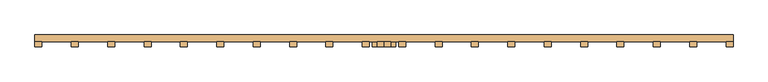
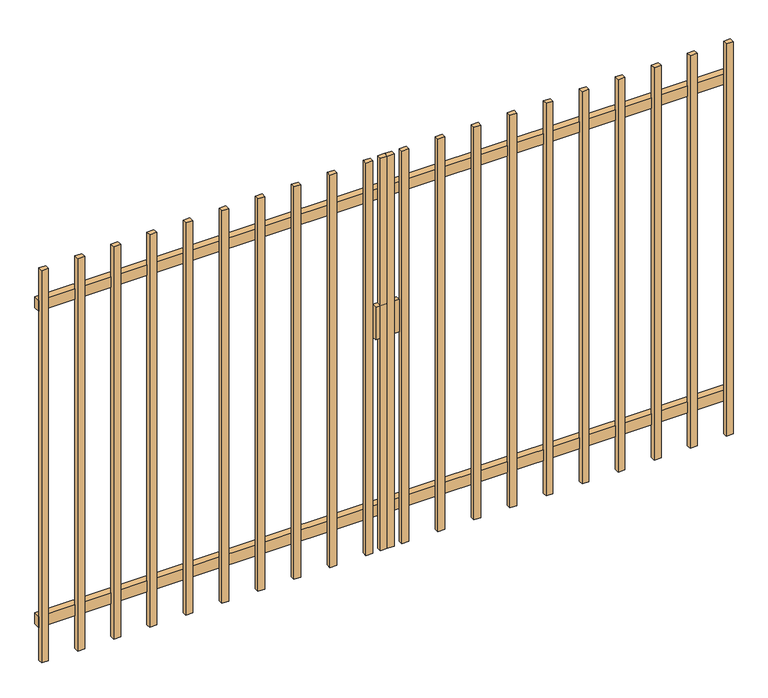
"""IFC4 building model written with IfcOpenShell, lengths in millimetres: door geometry, PORTÃO DUPLO PAREDE CORTINA : PORTÃO DUPLO 3M."""

from ifc_helpers import new_model, si_unit, frame, origin, place, context, project, spatial, polyline, outline, extrude, source, transform, mapped, element, save


def door_13d7e7a6(model_context):
    return source(origin(), model_context, "Body", "SweptSolid", [
        extrude(outline(polyline([(-1313.6842105, -90.0), (-1343.6842105, -90.0), (-1343.6842105, -70.0), (-1313.6842105, -70.0), (-1313.6842105, -90.0)])), frame((0.0, 0.0, 50.0), z_axis=(0.0, 0.0, 1.0), x_axis=(1.0, 0.0, 0.0)), (0.0, 0.0, 1.0), 1800.0),
        extrude(outline(polyline([(-1157.3684211, -90.0), (-1187.3684211, -90.0), (-1187.3684211, -70.0), (-1157.3684211, -70.0), (-1157.3684211, -90.0)])), frame((0.0, 0.0, 50.0), z_axis=(0.0, 0.0, 1.0), x_axis=(1.0, 0.0, 0.0)), (0.0, 0.0, 1.0), 1800.0),
        extrude(outline(polyline([(-1001.0526316, -90.0), (-1031.0526316, -90.0), (-1031.0526316, -70.0), (-1001.0526316, -70.0), (-1001.0526316, -90.0)])), frame((0.0, 0.0, 50.0), z_axis=(0.0, 0.0, 1.0), x_axis=(1.0, 0.0, 0.0)), (0.0, 0.0, 1.0), 1800.0),
        extrude(outline(polyline([(-844.7368421, -90.0), (-874.7368421, -90.0), (-874.7368421, -70.0), (-844.7368421, -70.0), (-844.7368421, -90.0)])), frame((0.0, 0.0, 50.0), z_axis=(0.0, 0.0, 1.0), x_axis=(1.0, 0.0, 0.0)), (0.0, 0.0, 1.0), 1800.0),
        extrude(outline(polyline([(-688.4210526, -90.0), (-718.4210526, -90.0), (-718.4210526, -70.0), (-688.4210526, -70.0), (-688.4210526, -90.0)])), frame((0.0, 0.0, 50.0), z_axis=(0.0, 0.0, 1.0), x_axis=(1.0, 0.0, 0.0)), (0.0, 0.0, 1.0), 1800.0),
        extrude(outline(polyline([(-532.1052632, -90.0), (-562.1052632, -90.0), (-562.1052632, -70.0), (-532.1052632, -70.0), (-532.1052632, -90.0)])), frame((0.0, 0.0, 50.0), z_axis=(0.0, 0.0, 1.0), x_axis=(1.0, 0.0, 0.0)), (0.0, 0.0, 1.0), 1800.0),
        extrude(outline(polyline([(-375.7894737, -90.0), (-405.7894737, -90.0), (-405.7894737, -70.0), (-375.7894737, -70.0), (-375.7894737, -90.0)])), frame((0.0, 0.0, 50.0), z_axis=(0.0, 0.0, 1.0), x_axis=(1.0, 0.0, 0.0)), (0.0, 0.0, 1.0), 1800.0),
        extrude(outline(polyline([(-219.4736842, -90.0), (-249.4736842, -90.0), (-249.4736842, -70.0), (-219.4736842, -70.0), (-219.4736842, -90.0)])), frame((0.0, 0.0, 50.0), z_axis=(0.0, 0.0, 1.0), x_axis=(1.0, 0.0, 0.0)), (0.0, 0.0, 1.0), 1800.0),
        extrude(outline(polyline([(30.0, -90.0), (0.0, -90.0), (0.0, -70.0), (30.0, -70.0), (30.0, -90.0)])), frame((0.0, 0.0, 50.0), z_axis=(0.0, 0.0, 1.0), x_axis=(1.0, 0.0, 0.0)), (0.0, 0.0, 1.0), 1800.0),
        extrude(outline(polyline([(0.0, -90.0), (-30.0, -90.0), (-30.0, -70.0), (0.0, -70.0), (0.0, -90.0)])), frame((0.0, 0.0, 50.0), z_axis=(0.0, 0.0, 1.0), x_axis=(1.0, 0.0, 0.0)), (0.0, 0.0, 1.0), 1800.0),
        extrude(outline(polyline([(-63.1578947, -90.0), (-93.1578947, -90.0), (-93.1578947, -70.0), (-63.1578947, -70.0), (-63.1578947, -90.0)])), frame((0.0, 0.0, 50.0), z_axis=(0.0, 0.0, 1.0), x_axis=(1.0, 0.0, 0.0)), (0.0, 0.0, 1.0), 1800.0),
        extrude(outline(polyline([(93.1578947, -90.0), (63.1578947, -90.0), (63.1578947, -70.0), (93.1578947, -70.0), (93.1578947, -90.0)])), frame((0.0, 0.0, 50.0), z_axis=(0.0, 0.0, 1.0), x_axis=(1.0, 0.0, 0.0)), (0.0, 0.0, 1.0), 1800.0),
        extrude(outline(polyline([(249.4736842, -90.0), (219.4736842, -90.0), (219.4736842, -70.0), (249.4736842, -70.0), (249.4736842, -90.0)])), frame((0.0, 0.0, 50.0), z_axis=(0.0, 0.0, 1.0), x_axis=(1.0, 0.0, 0.0)), (0.0, 0.0, 1.0), 1800.0),
        extrude(outline(polyline([(405.7894737, -90.0), (375.7894737, -90.0), (375.7894737, -70.0), (405.7894737, -70.0), (405.7894737, -90.0)])), frame((0.0, 0.0, 50.0), z_axis=(0.0, 0.0, 1.0), x_axis=(1.0, 0.0, 0.0)), (0.0, 0.0, 1.0), 1800.0),
        extrude(outline(polyline([(562.1052632, -90.0), (532.1052632, -90.0), (532.1052632, -70.0), (562.1052632, -70.0), (562.1052632, -90.0)])), frame((0.0, 0.0, 50.0), z_axis=(0.0, 0.0, 1.0), x_axis=(1.0, 0.0, 0.0)), (0.0, 0.0, 1.0), 1800.0),
        extrude(outline(polyline([(718.4210526, -90.0), (688.4210526, -90.0), (688.4210526, -70.0), (718.4210526, -70.0), (718.4210526, -90.0)])), frame((0.0, 0.0, 50.0), z_axis=(0.0, 0.0, 1.0), x_axis=(1.0, 0.0, 0.0)), (0.0, 0.0, 1.0), 1800.0),
        extrude(outline(polyline([(874.7368421, -90.0), (844.7368421, -90.0), (844.7368421, -70.0), (874.7368421, -70.0), (874.7368421, -90.0)])), frame((0.0, 0.0, 50.0), z_axis=(0.0, 0.0, 1.0), x_axis=(1.0, 0.0, 0.0)), (0.0, 0.0, 1.0), 1800.0),
        extrude(outline(polyline([(1031.0526316, -90.0), (1001.0526316, -90.0), (1001.0526316, -70.0), (1031.0526316, -70.0), (1031.0526316, -90.0)])), frame((0.0, 0.0, 50.0), z_axis=(0.0, 0.0, 1.0), x_axis=(1.0, 0.0, 0.0)), (0.0, 0.0, 1.0), 1800.0),
        extrude(outline(polyline([(1187.3684211, -90.0), (1157.3684211, -90.0), (1157.3684211, -70.0), (1187.3684211, -70.0), (1187.3684211, -90.0)])), frame((0.0, 0.0, 50.0), z_axis=(0.0, 0.0, 1.0), x_axis=(1.0, 0.0, 0.0)), (0.0, 0.0, 1.0), 1800.0),
        extrude(outline(polyline([(1343.6842105, -90.0), (1313.6842105, -90.0), (1313.6842105, -70.0), (1343.6842105, -70.0), (1343.6842105, -90.0)])), frame((0.0, 0.0, 50.0), z_axis=(0.0, 0.0, 1.0), x_axis=(1.0, 0.0, 0.0)), (0.0, 0.0, 1.0), 1800.0),
        extrude(outline(polyline([(-1470.0, -90.0), (-1500.0, -90.0), (-1500.0, -70.0), (-1470.0, -70.0), (-1470.0, -90.0)])), frame((0.0, 0.0, 50.0), z_axis=(0.0, 0.0, 1.0), x_axis=(1.0, 0.0, 0.0)), (0.0, 0.0, 1.0), 1800.0),
        extrude(outline(polyline([(1500.0, -90.0), (1470.0, -90.0), (1470.0, -70.0), (1500.0, -70.0), (1500.0, -90.0)])), frame((0.0, 0.0, 50.0), z_axis=(0.0, 0.0, 1.0), x_axis=(1.0, 0.0, 0.0)), (0.0, 0.0, 1.0), 1800.0),
        extrude(outline(polyline([(51.2053405, -70.0), (51.2053405, -90.0), (-51.2053405, -90.0), (-51.2053405, -70.0), (51.2053405, -70.0)])), frame((0.0, 0.0, 1025.0), z_axis=(0.0, 0.0, 1.0), x_axis=(1.0, 0.0, 0.0)), (0.0, 0.0, 1.0), 150.0),
        extrude(outline(polyline([(-1500.0, -40.0), (1500.0, -40.0), (1500.0, -70.0), (-1500.0, -70.0), (-1500.0, -40.0)])), frame((0.0, 0.0, 200.0), z_axis=(0.0, 0.0, 1.0), x_axis=(1.0, 0.0, 0.0)), (0.0, 0.0, 1.0), 50.0),
        extrude(outline(polyline([(-1500.0, -40.0), (1500.0, -40.0), (1500.0, -70.0), (-1500.0, -70.0), (-1500.0, -40.0)])), frame((0.0, 0.0, 1650.0), z_axis=(0.0, 0.0, 1.0), x_axis=(1.0, 0.0, 0.0)), (0.0, 0.0, 1.0), 50.0),
    ])


if __name__ == "__main__":
    model = new_model("IFC4")
    model_context = context("Model", 3, world=origin())
    ifc_project = project(units=[si_unit("LENGTHUNIT", "METRE", prefix="MILLI")], contexts=[model_context])
    site = spatial("IfcSite", under=ifc_project)
    building = spatial("IfcBuilding", under=site)
    placement = place(None, origin())
    door_shape = door_13d7e7a6(model_context)
    element("IfcDoor", 1, ObjectType="PORTÃO DUPLO PAREDE CORTINA : PORTÃO DUPLO 3M", at=placement, inside=building, context=model_context, shape_type="MappedRepresentation", body=[
        mapped(door_shape, transform((0.0, 0.0, 0.0), x_axis=(1.0, 0.0, 0.0), y_axis=(0.0, 1.0, 0.0), z_axis=(0.0, 0.0, 1.0))),
    ])
    save(model, "model.ifc")
